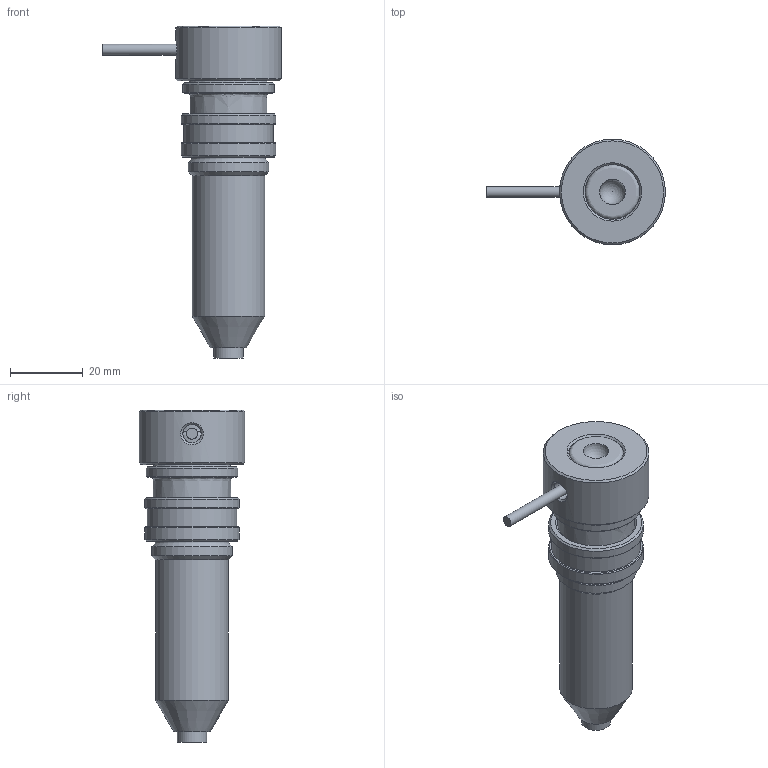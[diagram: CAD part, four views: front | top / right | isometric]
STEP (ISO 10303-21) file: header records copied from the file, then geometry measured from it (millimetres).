
FILE_DESCRIPTION(('STEP AP214'),'1');
FILE_NAME('IPM150-C.stp','2018-06-12T13:09:18',(' '),(' '),'Spatial InterOp 3D',' ',' ');
FILE_SCHEMA(('AUTOMOTIVE_DESIGN { 1 0 10303 214 1 1 1 1 }'));
Length unit declared in the file: millimetre
Products named in the file (1): 1
Bounding box: 49 x 29 x 91 mm (x, y, z)
Volume: 27699.5 mm3; surface area: 17496.2 mm2
Topology: 4 solids, 4 shells, 81 faces, 155 edges, 92 vertices
Faces by surface type: cone 25, cylinder 24, plane 20, revolution 8, torus 2, sphere 1, bspline 1
Full cylindrical faces by diameter (mm): 3 x3, 4.55 x1, 5 x1, 6.35 x1, 6.75 x1, 6.76 x1, 8 x1, 9 x1, 15 x1, 17.2 x2, 19.958 x1, 20.9 x1, 21 x1, 21.2 x2, 22 x1, 24.5 x1, 25 x1, 26 x2, 29 x1
Entity records: 2758 total; most frequent: CARTESIAN_POINT 693, DIRECTION 314, ORIENTED_EDGE 174, EDGE_LOOP 156, AXIS2_PLACEMENT_3D 152, FACE_OUTER_BOUND 114, EDGE_CURVE 87, VERTEX_POINT 84
